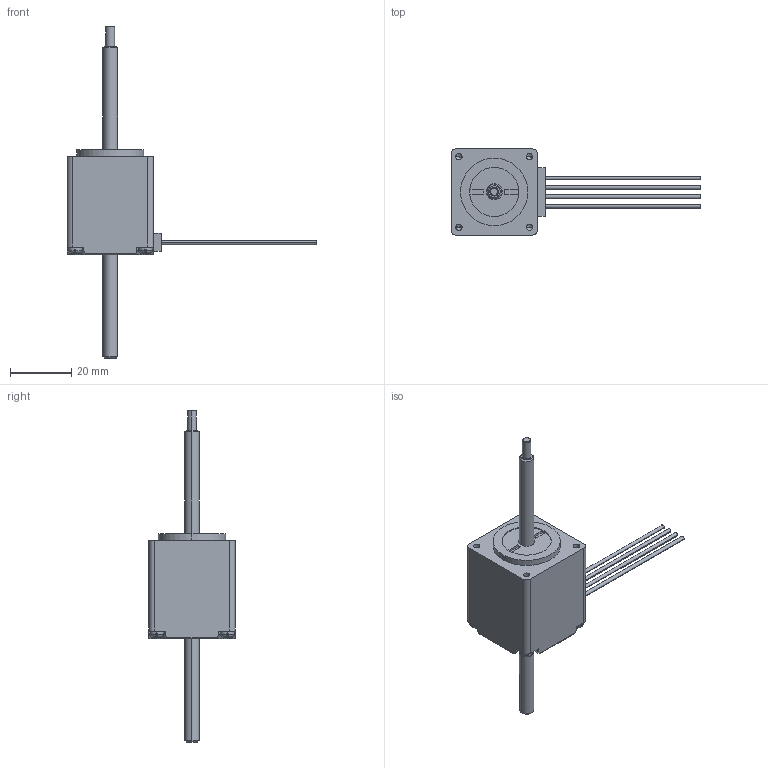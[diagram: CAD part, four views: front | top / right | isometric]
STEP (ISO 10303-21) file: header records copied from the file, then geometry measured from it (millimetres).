
FILE_DESCRIPTION (( 'STEP AP214' ), '1' );
FILE_NAME ('AMETEK-28F47-2.1-4-12.STEP', '2019-11-07T16:15:49', ( '' ), ( '' ), 'SwSTEP 2.0', 'SolidWorks 2019', '' );
FILE_SCHEMA (( 'AUTOMOTIVE_DESIGN' ));
Length unit declared in the file: inch
Products named in the file (3): AMETEK-28F47-2.1-4-12; 28000_non_captive_screw_28000 non captive leadscrew; 28000_non_captive_None
Assembly tree (2 placements, depth 2):
  AMETEK-28F47-2.1-4-12
    28000_non_captive_None
    28000_non_captive_screw_28000 non captive leadscrew
Bounding box: 81.53 x 28.19 x 108.28 mm (x, y, z)
Volume: 27653.9 mm3; surface area: 8520.3 mm2
Topology: 2 solids, 2 shells, 194 faces, 496 edges, 319 vertices
Faces by surface type: plane 105, cylinder 58, cone 18, torus 13
Entity records: 6986 total; most frequent: CARTESIAN_POINT 1311, DIRECTION 1000, ORIENTED_EDGE 976, EDGE_CURVE 488, AXIS2_PLACEMENT_3D 358, VERTEX_POINT 319, VECTOR 284, LINE 284
